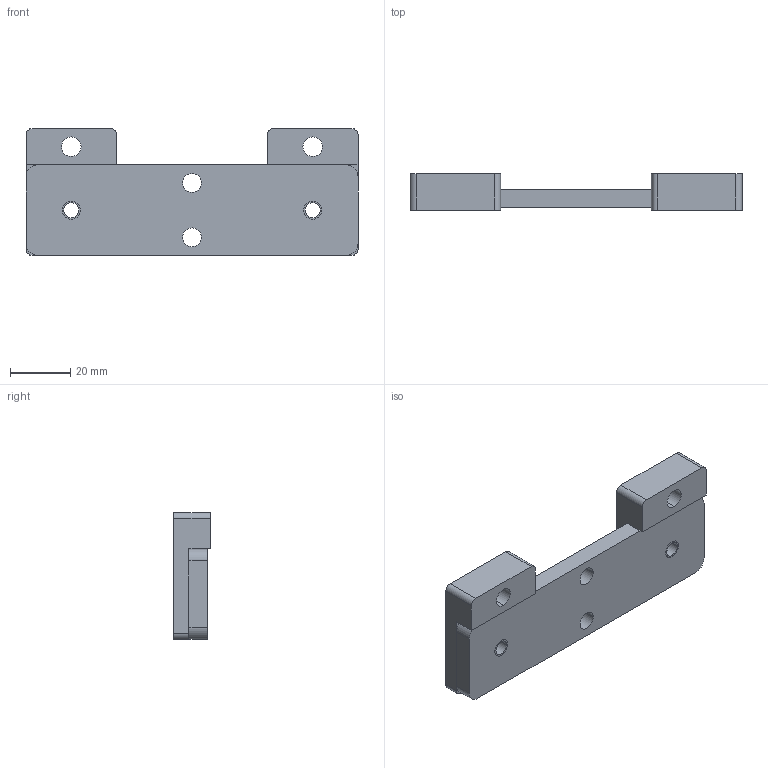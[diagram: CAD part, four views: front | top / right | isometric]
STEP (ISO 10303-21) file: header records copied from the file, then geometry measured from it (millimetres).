
FILE_DESCRIPTION((''),'2;1');
FILE_NAME('FIPA3030D_ASM','2002-12-27T',('Lipro doo'),('Lipro d.o.o.'),'PRO/ENGINEER BY PARAMETRIC TECHNOLOGY CORPORATION, 2001150','PRO/ENGINEER BY PARAMETRIC TECHNOLOGY CORPORATION, 2001150','');
FILE_SCHEMA(('CONFIG_CONTROL_DESIGN'));
Length unit declared in the file: millimetre
Products named in the file (3): FIPA_3; FIPA_1; FIPA3030D_ASM
Assembly tree (3 placements, depth 2):
  FIPA3030D_ASM
    FIPA_3
    FIPA_1  x2
Bounding box: 110 x 12 x 42 mm (x, y, z)
Volume: 34428.9 mm3; surface area: 16553 mm2
Topology: 3 solids, 5 shells, 62 faces, 164 edges, 108 vertices
Faces by surface type: cylinder 32, plane 26, cone 4
Entity records: 1512 total; most frequent: DIRECTION 272, CARTESIAN_POINT 244, ORIENTED_EDGE 224, EDGE_CURVE 116, AXIS2_PLACEMENT_3D 104, VERTEX_POINT 76, VECTOR 64, LINE 64
